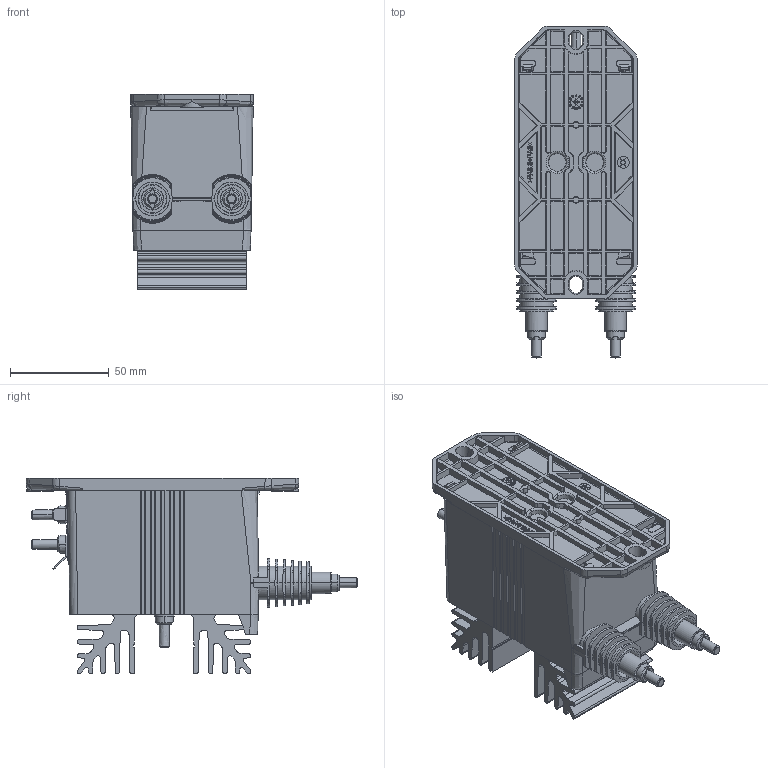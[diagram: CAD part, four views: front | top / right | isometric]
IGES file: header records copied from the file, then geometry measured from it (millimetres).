
Start section: Elysium IGES Interface
Global section: file name: C:\Documents and Settings\rpa\Desktop\LV100\LV_100-3500_SP2.stp.igs; native system: Creo Elements/Direct Modeling 17.0C  05-Feb-2011; preprocessor: Creo Element/Direct IGES_3D V2.2; author: Unknown; organization: Unknown; date: 20120207.152820; units: millimetre
Bounding box: 62.21 x 168.14 x 99 mm (x, y, z)
Volume: 4606.2 mm3; surface area: 111681.8 mm2
Topology: 7 solids, 11 shells, 2642 faces, 7253 edges, 4748 vertices
Faces by surface type: bspline 2642
